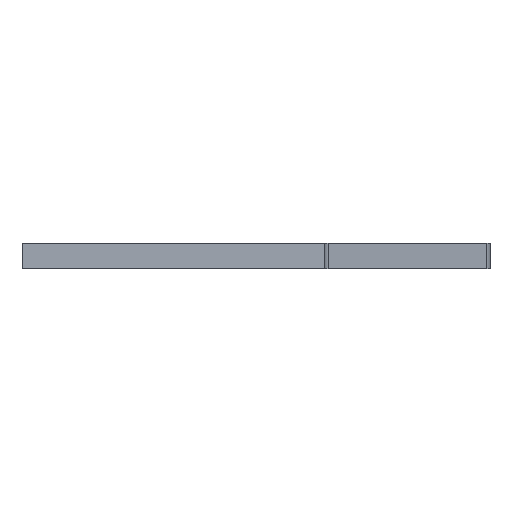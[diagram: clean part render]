
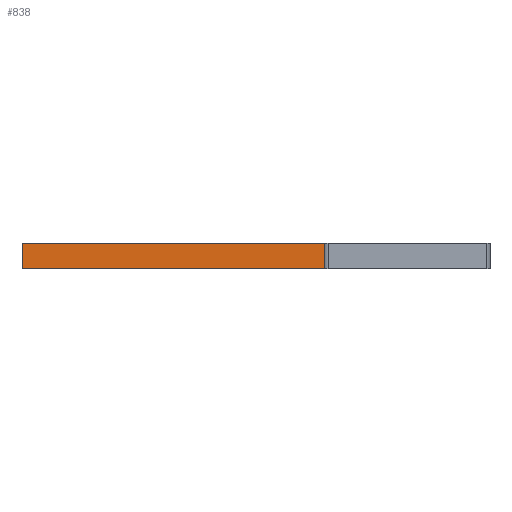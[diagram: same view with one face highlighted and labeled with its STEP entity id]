
A CAD part, front view. The second image highlights one B-rep face of the part: STEP entity #838.
In plain terms, the highlighted planar face has unit normal (0, -1, 0).
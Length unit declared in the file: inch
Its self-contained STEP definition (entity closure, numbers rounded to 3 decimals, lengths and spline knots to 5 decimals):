
#17 = LINE ( 'NONE', #155, #529 ) ;
#40 = CARTESIAN_POINT ( 'NONE',  ( -4.5, -8., 0.375 ) ) ;
#101 = FACE_OUTER_BOUND ( 'NONE', #692, .T. ) ;
#103 = LINE ( 'NONE', #861, #128 ) ;
#105 = CARTESIAN_POINT ( 'NONE',  ( 0., -8., 0. ) ) ;
#108 = DIRECTION ( 'NONE',  ( 0., 1., 0. ) ) ;
#125 = EDGE_CURVE ( 'NONE', #878, #700, #103, .T. ) ;
#128 = VECTOR ( 'NONE', #202, 39.37008 ) ;
#133 = ORIENTED_EDGE ( 'NONE', *, *, #319, .T. ) ;
#155 = CARTESIAN_POINT ( 'NONE',  ( -4.5, -8., 0. ) ) ;
#187 = PLANE ( 'NONE',  #462 ) ;
#200 = VERTEX_POINT ( 'NONE', #708 ) ;
#201 = LINE ( 'NONE', #40, #382 ) ;
#202 = DIRECTION ( 'NONE',  ( 0., 0., -1. ) ) ;
#263 = DIRECTION ( 'NONE',  ( 0., 0., -1. ) ) ;
#319 = EDGE_CURVE ( 'NONE', #424, #200, #703, .T. ) ;
#366 = EDGE_CURVE ( 'NONE', #200, #700, #17, .T. ) ;
#376 = CARTESIAN_POINT ( 'NONE',  ( -4.5, -8., 0.375 ) ) ;
#382 = VECTOR ( 'NONE', #594, 39.37008 ) ;
#389 = CARTESIAN_POINT ( 'NONE',  ( -4.5, -8., 0.375 ) ) ;
#424 = VERTEX_POINT ( 'NONE', #376 ) ;
#443 = DIRECTION ( 'NONE',  ( 1., 0., 0. ) ) ;
#446 = ORIENTED_EDGE ( 'NONE', *, *, #454, .F. ) ;
#454 = EDGE_CURVE ( 'NONE', #424, #878, #201, .T. ) ;
#462 = AXIS2_PLACEMENT_3D ( 'NONE', #389, #108, #597 ) ;
#526 = CARTESIAN_POINT ( 'NONE',  ( 0., -8., 0.375 ) ) ;
#529 = VECTOR ( 'NONE', #443, 39.37008 ) ;
#538 = VECTOR ( 'NONE', #263, 39.37008 ) ;
#594 = DIRECTION ( 'NONE',  ( 1., 0., 0. ) ) ;
#597 = DIRECTION ( 'NONE',  ( 0., 0., 1. ) ) ;
#692 = EDGE_LOOP ( 'NONE', ( #879, #886, #446, #133 ) ) ;
#700 = VERTEX_POINT ( 'NONE', #105 ) ;
#703 = LINE ( 'NONE', #836, #538 ) ;
#708 = CARTESIAN_POINT ( 'NONE',  ( -4.5, -8., 0. ) ) ;
#836 = CARTESIAN_POINT ( 'NONE',  ( -4.5, -8., 0.375 ) ) ;
#838 = ADVANCED_FACE ( 'NONE', ( #101 ), #187, .F. ) ;
#861 = CARTESIAN_POINT ( 'NONE',  ( 0., -8., 0.375 ) ) ;
#878 = VERTEX_POINT ( 'NONE', #526 ) ;
#879 = ORIENTED_EDGE ( 'NONE', *, *, #366, .T. ) ;
#886 = ORIENTED_EDGE ( 'NONE', *, *, #125, .F. ) ;
